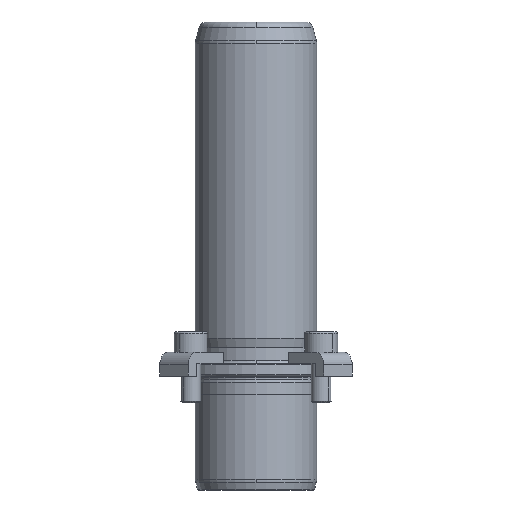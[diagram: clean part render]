
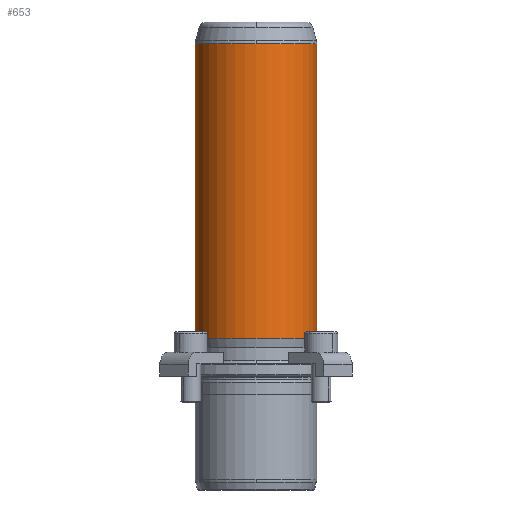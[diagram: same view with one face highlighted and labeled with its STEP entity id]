
A CAD part, front view. The second image highlights one B-rep face of the part: STEP entity #653.
In plain terms, the highlighted cylindrical face has radius 24 mm (diameter 48 mm), a partial arc.
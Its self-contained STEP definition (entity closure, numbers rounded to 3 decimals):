
#566=CARTESIAN_POINT('',(0.0,-24.,131.342));
#567=VERTEX_POINT('',#566);
#594=CARTESIAN_POINT('',(-24.0,0.,131.342));
#595=VERTEX_POINT('',#594);
#603=CARTESIAN_POINT('',(0.0,0.,131.342));
#604=DIRECTION('',(0.0,0.0,1.0));
#605=DIRECTION('',(1.0,0.0,0.0));
#606=AXIS2_PLACEMENT_3D('',#603,#604,#605);
#607=CIRCLE('',#606,24.0);
#608=EDGE_CURVE('',#595,#567,#607,.T.);
#613=CARTESIAN_POINT('',(0.0,0.,73.171));
#614=DIRECTION('',(0.0,0.,1.0));
#615=DIRECTION('',(1.0,0.0,0.0));
#616=AXIS2_PLACEMENT_3D('',#613,#614,#615);
#617=CYLINDRICAL_SURFACE('',#616,24.0);
#618=CARTESIAN_POINT('',(24.0,0.,131.342));
#619=VERTEX_POINT('',#618);
#620=CARTESIAN_POINT('',(24.0,0.,15.0));
#621=VERTEX_POINT('',#620);
#622=CARTESIAN_POINT('',(24.0,0.,131.342));
#623=DIRECTION('',(0.0,0.0,-1.0));
#624=VECTOR('',#623,116.342);
#625=LINE('',#622,#624);
#626=EDGE_CURVE('',#619,#621,#625,.T.);
#627=ORIENTED_EDGE('',*,*,#626,.F.);
#628=CARTESIAN_POINT('',(0.0,0.,131.342));
#629=DIRECTION('',(0.0,0.0,1.0));
#630=DIRECTION('',(1.0,0.0,0.0));
#631=AXIS2_PLACEMENT_3D('',#628,#629,#630);
#632=CIRCLE('',#631,24.0);
#633=EDGE_CURVE('',#567,#619,#632,.T.);
#634=ORIENTED_EDGE('',*,*,#633,.F.);
#635=ORIENTED_EDGE('',*,*,#608,.F.);
#636=CARTESIAN_POINT('',(-24.,0.,15.0));
#637=VERTEX_POINT('',#636);
#638=CARTESIAN_POINT('',(-24.0,0.,131.342));
#639=DIRECTION('',(0.0,0.0,-1.0));
#640=VECTOR('',#639,116.342);
#641=LINE('',#638,#640);
#642=EDGE_CURVE('',#595,#637,#641,.T.);
#643=ORIENTED_EDGE('',*,*,#642,.T.);
#644=CARTESIAN_POINT('',(0.0,0.,15.0));
#645=DIRECTION('',(0.0,0.0,1.0));
#646=DIRECTION('',(1.0,0.0,0.0));
#647=AXIS2_PLACEMENT_3D('',#644,#645,#646);
#648=CIRCLE('',#647,24.0);
#649=EDGE_CURVE('',#637,#621,#648,.T.);
#650=ORIENTED_EDGE('',*,*,#649,.T.);
#651=EDGE_LOOP('',(#627,#634,#635,#643,#650));
#652=FACE_OUTER_BOUND('',#651,.T.);
#653=ADVANCED_FACE('',(#652),#617,.T.);
